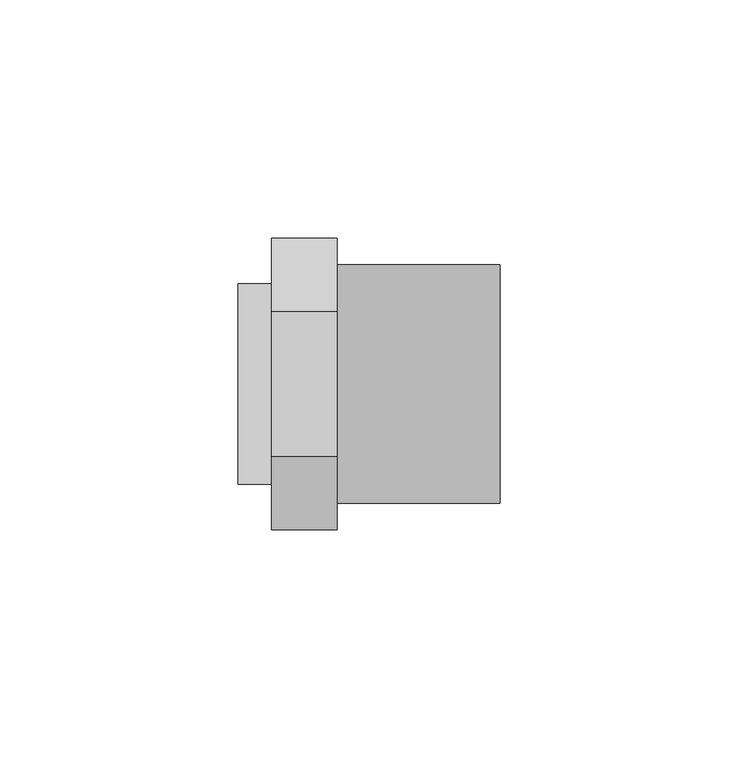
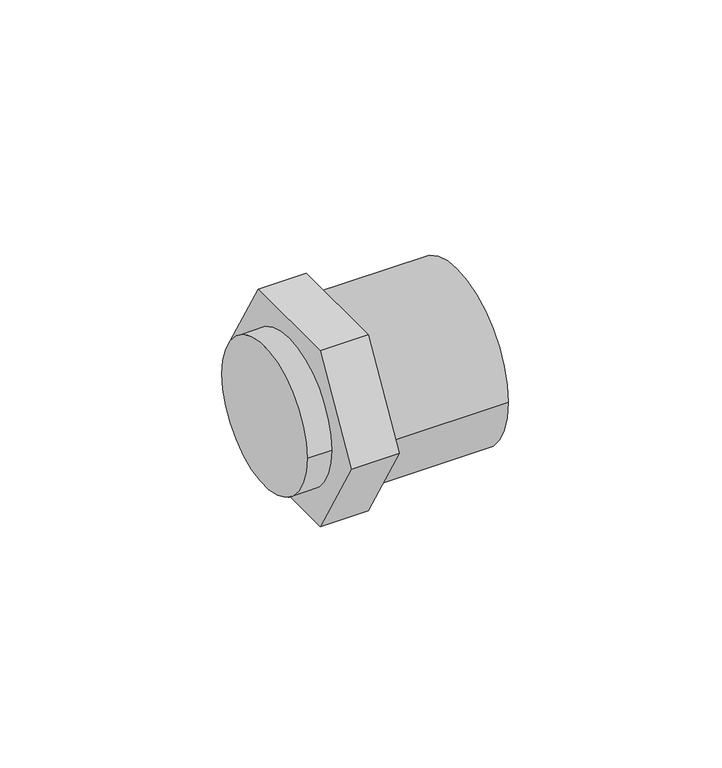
"""IFC4 building model written with IfcOpenShell, lengths in millimetres: pipe fitting geometry, 01101008_ : Uniões múltiplas F/M/F."""

from ifc_helpers import new_model, si_unit, point, frame, origin, origin_2d, place, context, project, spatial, polyline, circle_curve, trimmed, segment, composite_curve, outline, extrude, source, transform, mapped, element, save


def pipe_fitting_dd54dfd6(model_context):
    return source(origin(), model_context, "Body", "SweptSolid", [
        extrude(outline(composite_curve([segment(trimmed(circle_curve(origin_2d(), 21.0), [point((21.0, 0.0))], [point((-21.0, 0.0))], False, "CARTESIAN"), True, "CONTINUOUS"), segment(trimmed(circle_curve(origin_2d(), 21.0), [point((-21.0, 0.0))], [point((21.0, 0.0))], False, "CARTESIAN"), True, "CONTINUOUS")], self_intersect=False)), frame((0.0, 0.0, 0.0), z_axis=(1.0, 0.0, 0.0), x_axis=(0.0, 1.0, 0.0)), (0.0, 0.0, 1.0), 7.0),
        extrude(outline(polyline([(-15.2997821, 26.5), (15.2997821, 26.5), (30.5995643, 0.0), (15.2997821, -26.5), (-15.2997821, -26.5), (-30.5995643, 0.0), (-15.2997821, 26.5)])), frame((7.0, 0.0, 0.0), z_axis=(1.0, 0.0, 0.0), x_axis=(0.0, 1.0, 0.0)), (0.0, 0.0, 1.0), 13.75),
        extrude(outline(composite_curve([segment(trimmed(circle_curve(origin_2d(), 25.0), [point((-25.0, 0.0))], [point((25.0, 0.0))], False, "CARTESIAN"), True, "CONTINUOUS"), segment(trimmed(circle_curve(origin_2d(), 25.0), [point((25.0, 0.0))], [point((-25.0, 0.0))], False, "CARTESIAN"), True, "CONTINUOUS")], self_intersect=False)), frame((20.75, 0.0, 0.0), z_axis=(1.0, 0.0, 0.0), x_axis=(0.0, 1.0, 0.0)), (0.0, 0.0, 1.0), 34.25),
    ])


if __name__ == "__main__":
    model = new_model("IFC4")
    model_context = context("Model", 3, world=origin())
    ifc_project = project(units=[si_unit("LENGTHUNIT", "METRE", prefix="MILLI")], contexts=[model_context])
    site = spatial("IfcSite", under=ifc_project)
    building = spatial("IfcBuilding", under=site)
    placement = place(None, origin())
    pipe_fitting_shape = pipe_fitting_dd54dfd6(model_context)
    element("IfcPipeFitting", 1, ObjectType="01101008_ : Uniões múltiplas F/M/F", at=placement, inside=building, context=model_context, shape_type="MappedRepresentation", body=[
        mapped(pipe_fitting_shape, transform((0.0, 0.0, 0.0), x_axis=(1.0, 0.0, 0.0), y_axis=(0.0, 1.0, 0.0), z_axis=(0.0, 0.0, 1.0))),
    ])
    save(model, "model.ifc")
